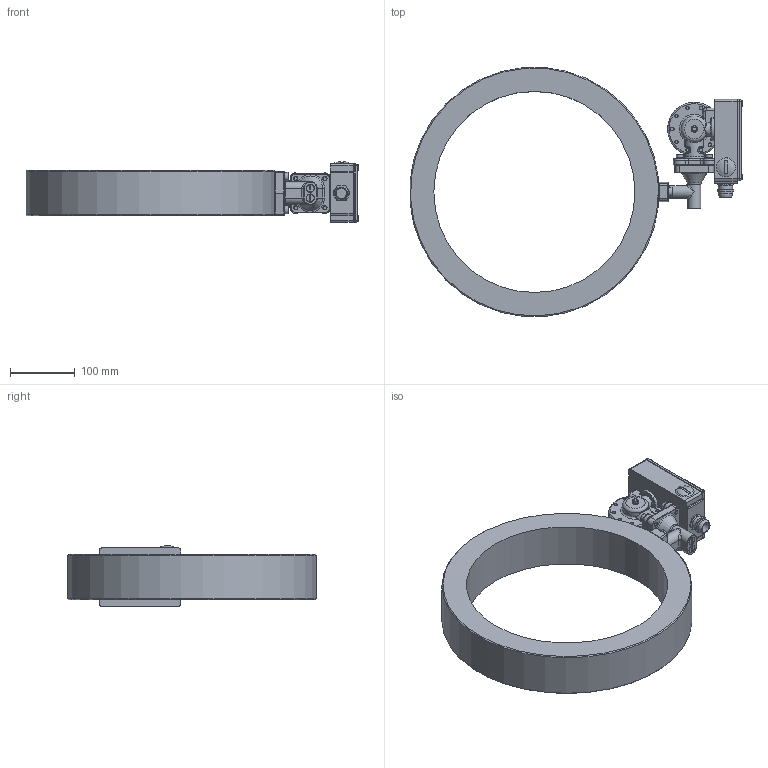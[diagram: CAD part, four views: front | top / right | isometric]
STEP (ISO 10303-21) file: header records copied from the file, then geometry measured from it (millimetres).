
FILE_DESCRIPTION(/* description */ ('Alibre Inc.'),/* implementation_level */ '2;1');
FILE_NAME(/* name */ 'export0',/* time_stamp */ '2012-10-15T13:35:03+02:00',/* author */ (''),/* organization */ (''),/* preprocessor_version */ 'ST-DEVELOPER v14',/* originating_system */ 'Alibre',/* authorisation */ '');
FILE_SCHEMA (('CONFIG_CONTROL_DESIGN'));
Length unit declared in the file: centimetre
Products named in the file (13): ID_1; ID_2; ID_3; ID_4; ID_5; ID_6; ID_7; ID_8
Bounding box: 511.77 x 383.79 x 93.66 mm (x, y, z)
Volume: 3254068 mm3; surface area: 403846.3 mm2
Topology: 29 solids, 29 shells, 1094 faces, 2578 edges, 1625 vertices
Faces by surface type: plane 540, cylinder 251, bspline 168, torus 65, cone 65, sphere 5
Full cylindrical faces by diameter (mm): 5 x23, 5.5 x18, 6 x12, 6.038 x2, 6.5 x4, 7.5 x1, 8 x18, 8.3 x9, 8.5 x2, 8.7 x2, 9.6 x4, 10 x4, 11.75 x2, 11.85 x1, 12 x2, 13 x2, 14 x2, 16 x1, 17.966 x1, 22 x2, 22.5 x4, 31 x1, 32 x1, 47 x1, 56 x2, 310 x1
Entity records: 34369 total; most frequent: CARTESIAN_POINT 13997, ORIENTED_EDGE 3918, DIRECTION 3181, EDGE_CURVE 1959, VERTEX_POINT 1309, AXIS2_PLACEMENT_3D 1303, EDGE_LOOP 1146, FACE_BOUND 1146
